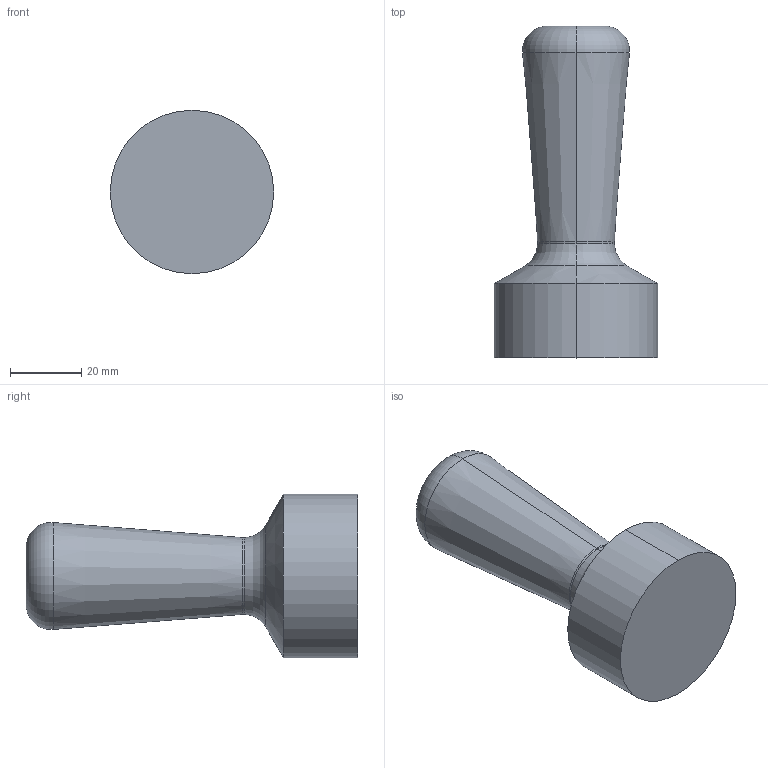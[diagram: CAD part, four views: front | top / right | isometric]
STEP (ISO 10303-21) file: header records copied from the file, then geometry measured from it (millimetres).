
FILE_DESCRIPTION (( 'STEP AP203' ), '1' );
FILE_NAME ('5846 Tamper V2 3Da.STEP', '2025-05-18T14:42:26', ( '' ), ( '' ), 'SwSTEP 2.0', 'SolidWorks 2023', '' );
FILE_SCHEMA (( 'CONFIG_CONTROL_DESIGN' ));
Length unit declared in the file: millimetre
Products named in the file (1): 5846 Tamper V2 3Da
Bounding box: 45.8 x 93 x 45.8 mm (x, y, z)
Volume: 75014.8 mm3; surface area: 11815.6 mm2
Topology: 1 solids, 1 shells, 14 faces, 26 edges, 14 vertices
Faces by surface type: torus 6, cone 4, cylinder 2, plane 2
Entity records: 427 total; most frequent: DIRECTION 76, CARTESIAN_POINT 55, ORIENTED_EDGE 52, AXIS2_PLACEMENT_3D 35, EDGE_CURVE 26, CIRCLE 20, VERTEX_POINT 14, EDGE_LOOP 14
